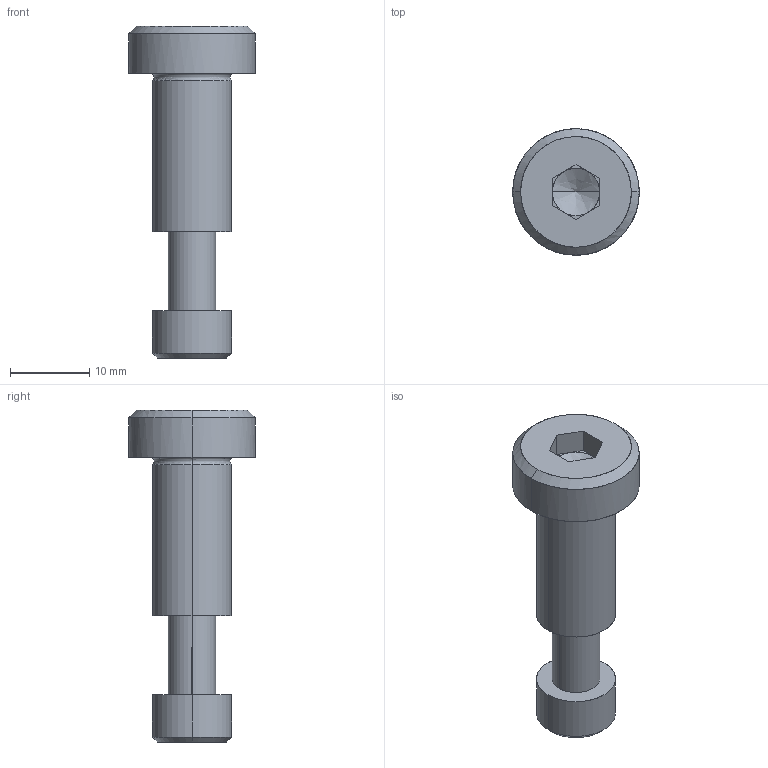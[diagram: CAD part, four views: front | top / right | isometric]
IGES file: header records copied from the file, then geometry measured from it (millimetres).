
Global section: file name: E:\UnigraphicsGraphicData\MISUMI_PRESS-PARTS\IGES\3d_sbtc10-20_05097_r00.igs; native system: NX V5.0; preprocessor: UGS NX IGES V5.0; author: MISUMI; date: 20110105.162441; units: millimetre
Bounding box: 16 x 16 x 42 mm (x, y, z)
Surface area: 2537.6 mm2 (no closed solid volume)
Topology: 0 solids, 0 shells, 52 faces, 280 edges, 276 vertices
Faces by surface type: bspline 52
